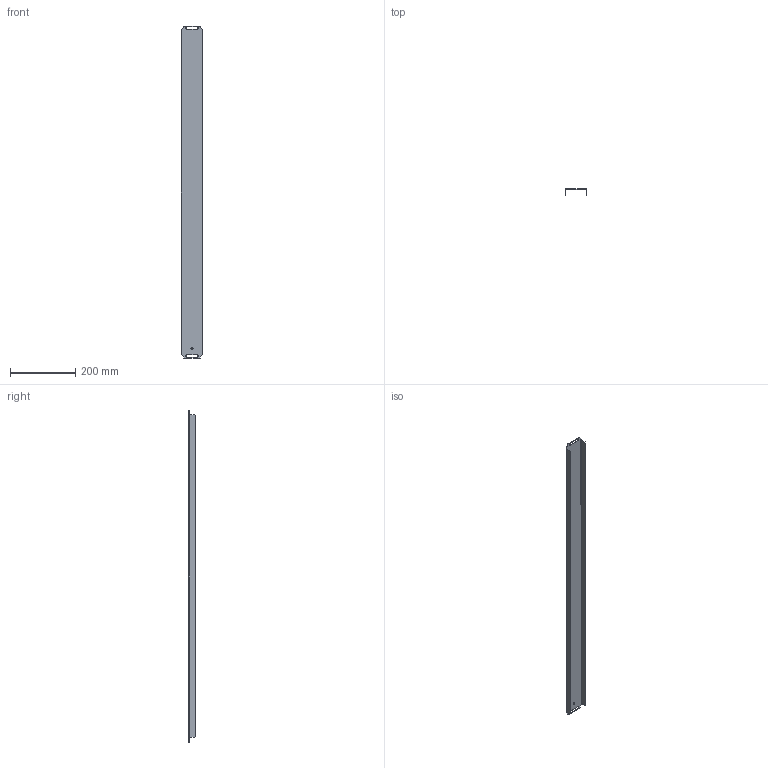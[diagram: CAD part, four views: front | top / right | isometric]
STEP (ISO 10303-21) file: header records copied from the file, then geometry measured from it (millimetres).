
FILE_DESCRIPTION (( 'STEP AP214' ), '1' );
FILE_NAME ('PKV 120 S Ïàíåëü ñòàöèîíàðíàÿ.STEP', '2023-10-09T14:48:27', ( '' ), ( '' ), 'SwSTEP 2.0', 'SolidWorks 2022', '' );
FILE_SCHEMA (( 'AUTOMOTIVE_DESIGN' ));
Length unit declared in the file: millimetre
Products named in the file (1): PKV 120 S Панель стационарная
Bounding box: 67 x 19 x 1020.5 mm (x, y, z)
Volume: 121582.6 mm3; surface area: 205524.6 mm2
Topology: 1 solids, 1 shells, 40 faces, 98 edges, 60 vertices
Faces by surface type: plane 26, cylinder 10, bspline 4
Entity records: 1312 total; most frequent: CARTESIAN_POINT 363, ORIENTED_EDGE 196, DIRECTION 168, EDGE_CURVE 98, LINE 70, VECTOR 70, VERTEX_POINT 60, AXIS2_PLACEMENT_3D 49
